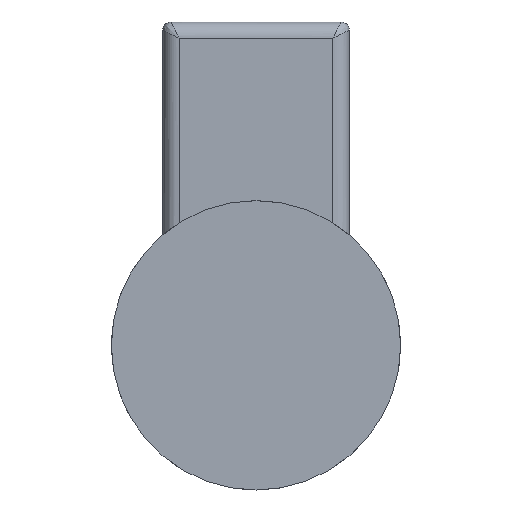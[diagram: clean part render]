
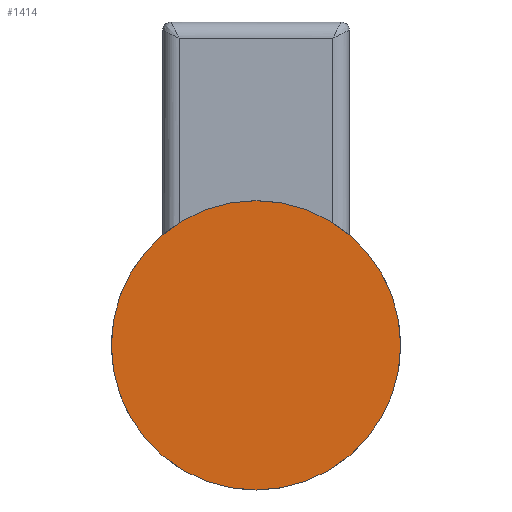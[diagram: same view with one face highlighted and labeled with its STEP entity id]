
A CAD part, front view. The second image highlights one B-rep face of the part: STEP entity #1414.
In plain terms, the highlighted planar face has unit normal (0, -1, 0).
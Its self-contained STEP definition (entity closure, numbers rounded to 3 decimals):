
#109 = AXIS2_PLACEMENT_3D ( 'NONE', #2495, #1173, #1206 ) ;
#379 = EDGE_LOOP ( 'NONE', ( #2555 ) ) ;
#553 = DIRECTION ( 'NONE',  ( 0., 1., 0. ) ) ;
#1159 = EDGE_CURVE ( 'NONE', #2073, #2073, #2007, .T. ) ;
#1173 = DIRECTION ( 'NONE',  ( 0., -1., 0. ) ) ;
#1206 = DIRECTION ( 'NONE',  ( 1., 0., 0. ) ) ;
#1367 = CARTESIAN_POINT ( 'NONE',  ( 49.978, 28.322, 0. ) ) ;
#1414 = ADVANCED_FACE ( 'NONE', ( #3159 ), #3228, .T. ) ;
#2007 = CIRCLE ( 'NONE', #3184, 34.9 ) ;
#2073 = VERTEX_POINT ( 'NONE', #3056 ) ;
#2495 = CARTESIAN_POINT ( 'NONE',  ( 49.978, 28.322, 0. ) ) ;
#2555 = ORIENTED_EDGE ( 'NONE', *, *, #1159, .F. ) ;
#2670 = DIRECTION ( 'NONE',  ( 1., 0., 0. ) ) ;
#3056 = CARTESIAN_POINT ( 'NONE',  ( 84.878, 28.322, 0. ) ) ;
#3159 = FACE_OUTER_BOUND ( 'NONE', #379, .T. ) ;
#3184 = AXIS2_PLACEMENT_3D ( 'NONE', #1367, #553, #2670 ) ;
#3228 = PLANE ( 'NONE',  #109 ) ;
